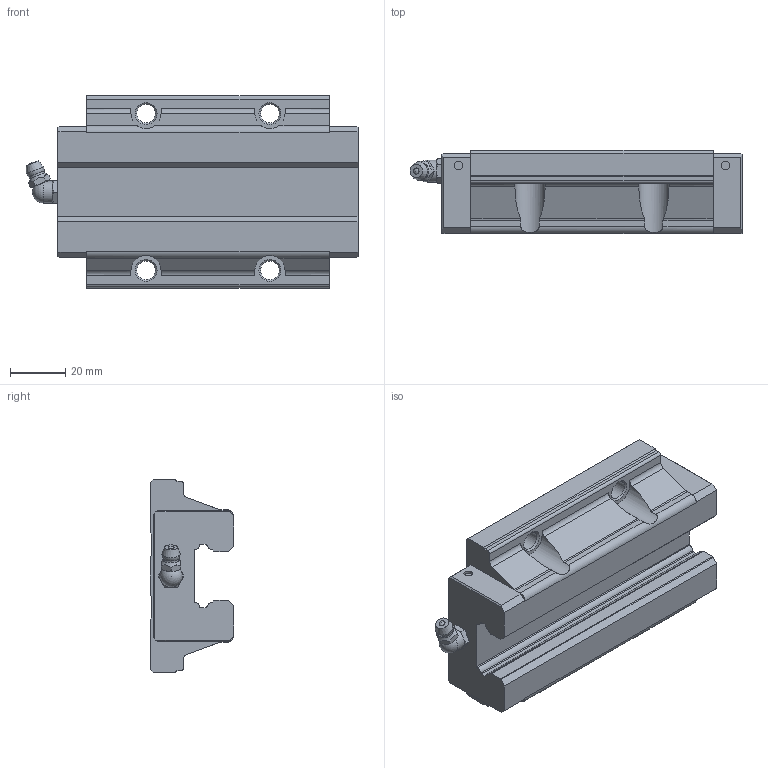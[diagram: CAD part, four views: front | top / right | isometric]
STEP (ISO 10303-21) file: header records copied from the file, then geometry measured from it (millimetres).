
FILE_DESCRIPTION(/* description */ ('STEP AP203'),/* implementation_level */ '2;1');
FILE_NAME(/* name */ 'SHS25LC1SS(GK) BLOCK(B-M6F1)',/* time_stamp */ '2024-05-14T04:36:06+02:00',/* author */ ('License CC BY-ND 4.0'),/* organization */ ('CADENAS'),/* preprocessor_version */ 'ST-DEVELOPER v19.3',/* originating_system */ 'PARTsolutions',/* authorisation */ ' ');
FILE_SCHEMA (('CONFIG_CONTROL_DESIGN'));
Length unit declared in the file: millimetre
Products named in the file (3): SHS25LC1SS(GK) BLOCK(B-M6F1); SHS25LCSSB-M6F1 Slide25-55; B-M6F-SHS_grease_nipple_joint
Assembly tree (2 placements, depth 2):
  SHS25LC1SS(GK) BLOCK(B-M6F1)
    SHS25LCSSB-M6F1 Slide25-55
    B-M6F-SHS_grease_nipple_joint
Bounding box: 120.6 x 30.2 x 70 mm (x, y, z)
Volume: 151497.1 mm3; surface area: 27899.3 mm2
Topology: 2 solids, 2 shells, 178 faces, 488 edges, 319 vertices
Faces by surface type: plane 102, cylinder 50, cone 21, sphere 3, torus 2
Full cylindrical faces by diameter (mm): 3 x4, 4.917 x2, 6 x1, 6.8 x4, 8 x1
Entity records: 5525 total; most frequent: CARTESIAN_POINT 1114, DIRECTION 888, ORIENTED_EDGE 880, EDGE_CURVE 440, AXIS2_PLACEMENT_3D 311, VERTEX_POINT 305, LINE 266, VECTOR 266
